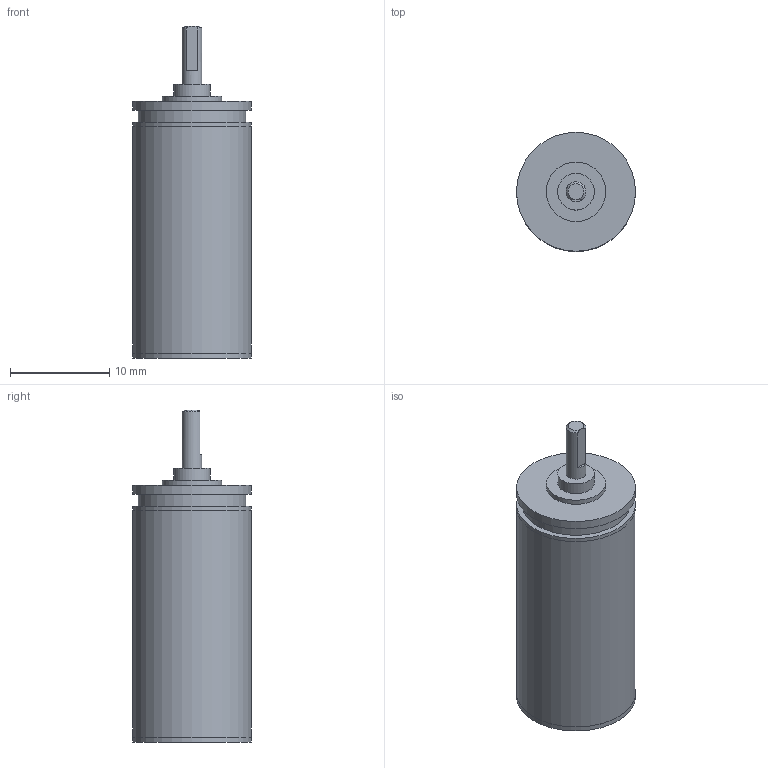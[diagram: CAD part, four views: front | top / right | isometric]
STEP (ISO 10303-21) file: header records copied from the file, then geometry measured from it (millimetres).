
FILE_DESCRIPTION(/* description */ (''),/* implementation_level */ '2;1');
FILE_NAME(/* name */ '12-3_8.stp',/* time_stamp */ '2016-08-24T10:12:05+02:00',/* author */ ('DR. FRITZ FAULHABER GmbH & Co. KG'),/* organization */ ('DR. FRITZ FAULHABER GmbH & Co. KG'),/* preprocessor_version */ 'ST-DEVELOPER v16',/* originating_system */ 'SIEMENS PLM Software NX 10.0',/* authorisation */ '');
FILE_SCHEMA (('AUTOMOTIVE_DESIGN { 1 0 10303 214 3 1 1 1 }'));
Length unit declared in the file: millimetre
Products named in the file (1): H00000571_A
Bounding box: 12 x 12 x 33.5 mm (x, y, z)
Volume: 2878.6 mm3; surface area: 1364.8 mm2
Topology: 1 solids, 1 shells, 32 faces, 52 edges, 34 vertices
Faces by surface type: plane 16, cylinder 14, cone 2
Full cylindrical faces by diameter (mm): 2 x1, 2.48 x1, 2.6 x1, 3.7 x1, 5 x1, 6 x2, 10.88 x1, 11.99 x2, 12 x4
Entity records: 692 total; most frequent: DIRECTION 129, CARTESIAN_POINT 115, ORIENTED_EDGE 70, AXIS2_PLACEMENT_3D 63, EDGE_LOOP 59, FACE_BOUND 54, EDGE_CURVE 35, ADVANCED_FACE 32
